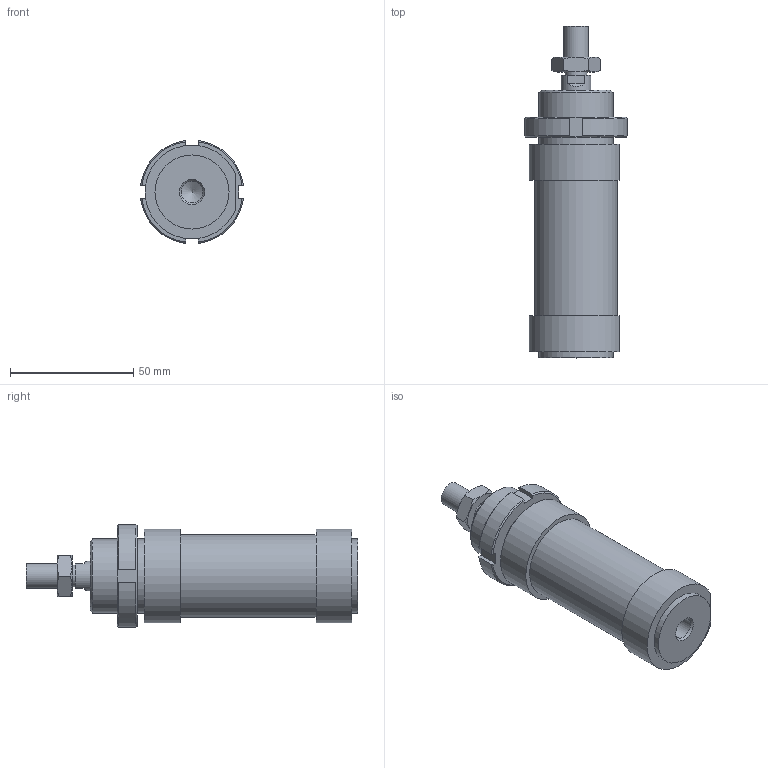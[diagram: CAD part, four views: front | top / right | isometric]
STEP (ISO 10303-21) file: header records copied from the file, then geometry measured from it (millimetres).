
FILE_DESCRIPTION((''),'2;1');
FILE_NAME('I:\Area Tecnica\Disegni\VARIE-3D\Componenti\1280\1281_##_####_#\1281_32_0015.iam.stp','2009-06-04T09:40:51',(''),(''),'Autodesk Inventor 2010','Autodesk Inventor 2010','');
FILE_SCHEMA(('AUTOMOTIVE_DESIGN { 1 0 10303 214 1 1 1 1 }'));
Length unit declared in the file: millimetre
Products named in the file (5): 1281_32_0015; C1281_32_15; S1280_32_15; 1200_32_05; 1200_32_06
Assembly tree (4 placements, depth 2):
  1281_32_0015
    C1281_32_15
    S1280_32_15
    1200_32_05
    1200_32_06
Bounding box: 41.7 x 134.5 x 41.7 mm (x, y, z)
Volume: 105578.9 mm3; surface area: 23982.9 mm2
Topology: 4 solids, 4 shells, 88 faces, 195 edges, 124 vertices
Faces by surface type: plane 39, cone 22, bspline 14, cylinder 13
Full cylindrical faces by diameter (mm): 8.8 x1, 10 x1, 12 x2, 30 x2, 33.6 x1
Entity records: 2663 total; most frequent: CARTESIAN_POINT 675, DIRECTION 362, ORIENTED_EDGE 338, EDGE_CURVE 169, AXIS2_PLACEMENT_3D 150, EDGE_LOOP 122, VERTEX_POINT 119, STYLED_ITEM 92
